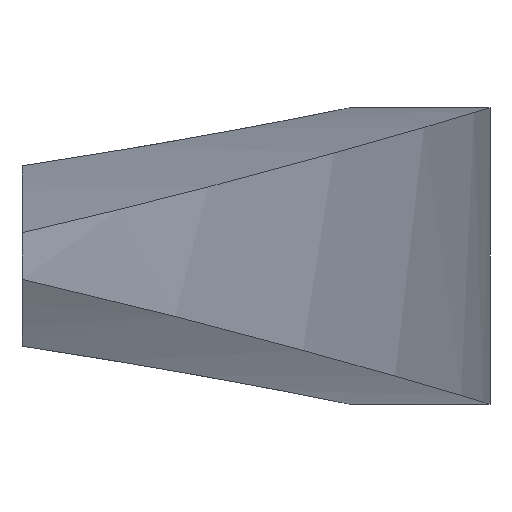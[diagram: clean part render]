
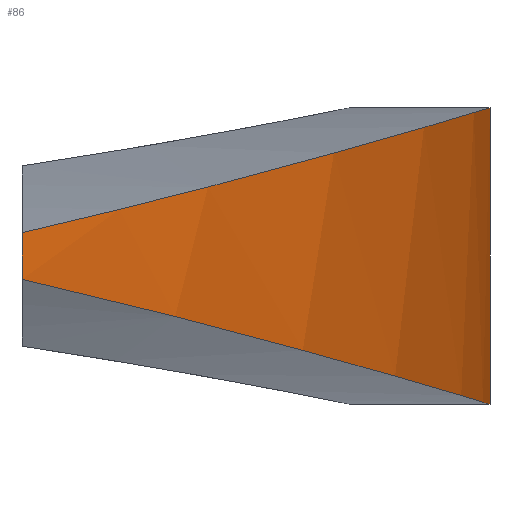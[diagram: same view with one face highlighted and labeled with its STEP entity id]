
A CAD part, left-side view. The second image highlights one B-rep face of the part: STEP entity #86.
In plain terms, the highlighted cylindrical face has radius 119.017 mm (diameter 238.033 mm), a partial arc.
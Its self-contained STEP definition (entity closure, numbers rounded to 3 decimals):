
#86 = ADVANCED_FACE( '', ( #112 ), #113, .T. );
#112 = FACE_OUTER_BOUND( '', #138, .T. );
#113 = CYLINDRICAL_SURFACE( '', #139, 119.017 );
#138 = EDGE_LOOP( '', ( #223, #224, #225, #226, #227, #228 ) );
#139 = AXIS2_PLACEMENT_3D( '', #229, #230, #231 );
#223 = ORIENTED_EDGE( '', *, *, #255, .T. );
#224 = ORIENTED_EDGE( '', *, *, #259, .F. );
#225 = ORIENTED_EDGE( '', *, *, #248, .T. );
#226 = ORIENTED_EDGE( '', *, *, #247, .T. );
#227 = ORIENTED_EDGE( '', *, *, #256, .T. );
#228 = ORIENTED_EDGE( '', *, *, #250, .T. );
#229 = CARTESIAN_POINT( '', ( 64., 89.017, 9.5 ) );
#230 = DIRECTION( '', ( 0., 0., 1. ) );
#231 = DIRECTION( '', ( -0.664, -0.748, 0. ) );
#247 = EDGE_CURVE( '', #287, #285, #288, .T. );
#248 = EDGE_CURVE( '', #289, #287, #290, .T. );
#250 = EDGE_CURVE( '', #292, #293, #294, .T. );
#255 = EDGE_CURVE( '', #293, #301, #303, .T. );
#256 = EDGE_CURVE( '', #285, #292, #304, .T. );
#259 = EDGE_CURVE( '', #289, #301, #307, .T. );
#285 = VERTEX_POINT( '', #371 );
#287 = VERTEX_POINT( '', #373 );
#288 = B_SPLINE_CURVE_WITH_KNOTS( '', 3, ( #374, #375, #376, #377, #378, #379, #380, #381, #382, #383, #384, #385, #386, #387, #388, #389, #390, #391 ), .UNSPECIFIED., .F., .F., ( 4, 2, 2, 2, 2, 2, 2, 2, 4 ), ( 89.661, 100.868, 112.076, 123.284, 134.491, 145.699, 156.906, 168.114, 172.812 ), .UNSPECIFIED. );
#289 = VERTEX_POINT( '', #392 );
#290 = B_SPLINE_CURVE_WITH_KNOTS( '', 3, ( #393, #394, #395, #396, #397, #398, #399, #400, #401, #402, #403, #404, #405, #406, #407, #408, #409, #410 ), .UNSPECIFIED., .F., .F., ( 4, 2, 2, 2, 2, 2, 2, 2, 4 ), ( 6.51, 11.208, 22.415, 33.623, 44.83, 56.038, 67.246, 78.453, 89.661 ), .UNSPECIFIED. );
#292 = VERTEX_POINT( '', #412 );
#293 = VERTEX_POINT( '', #413 );
#294 = B_SPLINE_CURVE_WITH_KNOTS( '', 3, ( #414, #415, #416, #417, #418, #419, #420, #421, #422, #423, #424, #425, #426, #427, #428, #429, #430, #431 ), .UNSPECIFIED., .F., .F., ( 4, 2, 2, 2, 2, 2, 2, 2, 4 ), ( 6.51, 11.208, 22.415, 33.623, 44.83, 56.038, 67.246, 78.453, 89.661 ), .UNSPECIFIED. );
#301 = VERTEX_POINT( '', #472 );
#303 = B_SPLINE_CURVE_WITH_KNOTS( '', 3, ( #474, #475, #476, #477, #478, #479, #480, #481, #482, #483, #484, #485, #486, #487, #488, #489, #490, #491 ), .UNSPECIFIED., .F., .F., ( 4, 2, 2, 2, 2, 2, 2, 2, 4 ), ( 89.661, 100.868, 112.076, 123.284, 134.491, 145.699, 156.906, 168.114, 172.812 ), .UNSPECIFIED. );
#304 = LINE( '', #492, #493 );
#307 = LINE( '', #498, #499 );
#371 = CARTESIAN_POINT( '', ( -15., 0., 1.5 ) );
#373 = CARTESIAN_POINT( '', ( 64., -30., 9.5 ) );
#374 = CARTESIAN_POINT( '', ( 64., -30., 9.5 ) );
#375 = CARTESIAN_POINT( '', ( 60.264, -30., 9.5 ) );
#376 = CARTESIAN_POINT( '', ( 56.467, -29.823, 9.447 ) );
#377 = CARTESIAN_POINT( '', ( 48.827, -29.091, 9.226 ) );
#378 = CARTESIAN_POINT( '', ( 44.984, -28.536, 9.06 ) );
#379 = CARTESIAN_POINT( '', ( 37.323, -27.037, 8.615 ) );
#380 = CARTESIAN_POINT( '', ( 33.505, -26.094, 8.337 ) );
#381 = CARTESIAN_POINT( '', ( 25.965, -23.827, 7.678 ) );
#382 = CARTESIAN_POINT( '', ( 22.242, -22.504, 7.298 ) );
#383 = CARTESIAN_POINT( '', ( 14.955, -19.496, 6.453 ) );
#384 = CARTESIAN_POINT( '', ( 11.388, -17.812, 5.988 ) );
#385 = CARTESIAN_POINT( '', ( 4.465, -14.114, 4.992 ) );
#386 = CARTESIAN_POINT( '', ( 1.108, -12.1, 4.463 ) );
#387 = CARTESIAN_POINT( '', ( -5.343, -7.79, 3.365 ) );
#388 = CARTESIAN_POINT( '', ( -8.437, -5.494, 2.797 ) );
#389 = CARTESIAN_POINT( '', ( -12.614, -2.076, 1.983 ) );
#390 = CARTESIAN_POINT( '', ( -13.821, -1.046, 1.741 ) );
#391 = CARTESIAN_POINT( '', ( -15., 0., 1.5 ) );
#392 = CARTESIAN_POINT( '', ( 143., 0., 1.5 ) );
#393 = CARTESIAN_POINT( '', ( 143., 0., 1.5 ) );
#394 = CARTESIAN_POINT( '', ( 141.821, -1.046, 1.741 ) );
#395 = CARTESIAN_POINT( '', ( 140.614, -2.076, 1.983 ) );
#396 = CARTESIAN_POINT( '', ( 136.437, -5.494, 2.797 ) );
#397 = CARTESIAN_POINT( '', ( 133.343, -7.79, 3.365 ) );
#398 = CARTESIAN_POINT( '', ( 126.892, -12.1, 4.463 ) );
#399 = CARTESIAN_POINT( '', ( 123.535, -14.114, 4.992 ) );
#400 = CARTESIAN_POINT( '', ( 116.612, -17.812, 5.988 ) );
#401 = CARTESIAN_POINT( '', ( 113.045, -19.496, 6.453 ) );
#402 = CARTESIAN_POINT( '', ( 105.758, -22.504, 7.298 ) );
#403 = CARTESIAN_POINT( '', ( 102.035, -23.827, 7.678 ) );
#404 = CARTESIAN_POINT( '', ( 94.495, -26.094, 8.337 ) );
#405 = CARTESIAN_POINT( '', ( 90.677, -27.037, 8.615 ) );
#406 = CARTESIAN_POINT( '', ( 83.016, -28.536, 9.06 ) );
#407 = CARTESIAN_POINT( '', ( 79.173, -29.091, 9.226 ) );
#408 = CARTESIAN_POINT( '', ( 71.533, -29.823, 9.447 ) );
#409 = CARTESIAN_POINT( '', ( 67.736, -30., 9.5 ) );
#410 = CARTESIAN_POINT( '', ( 64., -30., 9.5 ) );
#412 = CARTESIAN_POINT( '', ( -15., 0., -1.5 ) );
#413 = CARTESIAN_POINT( '', ( 64., -30., -9.5 ) );
#414 = CARTESIAN_POINT( '', ( -15., 0., -1.5 ) );
#415 = CARTESIAN_POINT( '', ( -13.821, -1.046, -1.741 ) );
#416 = CARTESIAN_POINT( '', ( -12.614, -2.076, -1.983 ) );
#417 = CARTESIAN_POINT( '', ( -8.437, -5.494, -2.797 ) );
#418 = CARTESIAN_POINT( '', ( -5.343, -7.79, -3.365 ) );
#419 = CARTESIAN_POINT( '', ( 1.108, -12.1, -4.463 ) );
#420 = CARTESIAN_POINT( '', ( 4.465, -14.114, -4.992 ) );
#421 = CARTESIAN_POINT( '', ( 11.388, -17.812, -5.988 ) );
#422 = CARTESIAN_POINT( '', ( 14.955, -19.496, -6.453 ) );
#423 = CARTESIAN_POINT( '', ( 22.242, -22.504, -7.298 ) );
#424 = CARTESIAN_POINT( '', ( 25.965, -23.827, -7.678 ) );
#425 = CARTESIAN_POINT( '', ( 33.505, -26.094, -8.337 ) );
#426 = CARTESIAN_POINT( '', ( 37.323, -27.037, -8.615 ) );
#427 = CARTESIAN_POINT( '', ( 44.984, -28.536, -9.06 ) );
#428 = CARTESIAN_POINT( '', ( 48.827, -29.091, -9.226 ) );
#429 = CARTESIAN_POINT( '', ( 56.467, -29.823, -9.447 ) );
#430 = CARTESIAN_POINT( '', ( 60.264, -30., -9.5 ) );
#431 = CARTESIAN_POINT( '', ( 64., -30., -9.5 ) );
#472 = CARTESIAN_POINT( '', ( 143., 0., -1.5 ) );
#474 = CARTESIAN_POINT( '', ( 64., -30., -9.5 ) );
#475 = CARTESIAN_POINT( '', ( 67.736, -30., -9.5 ) );
#476 = CARTESIAN_POINT( '', ( 71.533, -29.823, -9.447 ) );
#477 = CARTESIAN_POINT( '', ( 79.173, -29.091, -9.226 ) );
#478 = CARTESIAN_POINT( '', ( 83.016, -28.536, -9.06 ) );
#479 = CARTESIAN_POINT( '', ( 90.677, -27.037, -8.615 ) );
#480 = CARTESIAN_POINT( '', ( 94.495, -26.094, -8.337 ) );
#481 = CARTESIAN_POINT( '', ( 102.035, -23.827, -7.678 ) );
#482 = CARTESIAN_POINT( '', ( 105.758, -22.504, -7.298 ) );
#483 = CARTESIAN_POINT( '', ( 113.045, -19.496, -6.453 ) );
#484 = CARTESIAN_POINT( '', ( 116.612, -17.812, -5.988 ) );
#485 = CARTESIAN_POINT( '', ( 123.535, -14.114, -4.992 ) );
#486 = CARTESIAN_POINT( '', ( 126.892, -12.1, -4.463 ) );
#487 = CARTESIAN_POINT( '', ( 133.343, -7.79, -3.365 ) );
#488 = CARTESIAN_POINT( '', ( 136.437, -5.494, -2.797 ) );
#489 = CARTESIAN_POINT( '', ( 140.614, -2.076, -1.983 ) );
#490 = CARTESIAN_POINT( '', ( 141.821, -1.046, -1.741 ) );
#491 = CARTESIAN_POINT( '', ( 143., 0., -1.5 ) );
#492 = CARTESIAN_POINT( '', ( -15., 0., 9.5 ) );
#493 = VECTOR( '', #540, 1. );
#498 = CARTESIAN_POINT( '', ( 143., 0., 9.5 ) );
#499 = VECTOR( '', #543, 1. );
#540 = DIRECTION( '', ( 0., 0., -1. ) );
#543 = DIRECTION( '', ( 0., 0., -1. ) );
